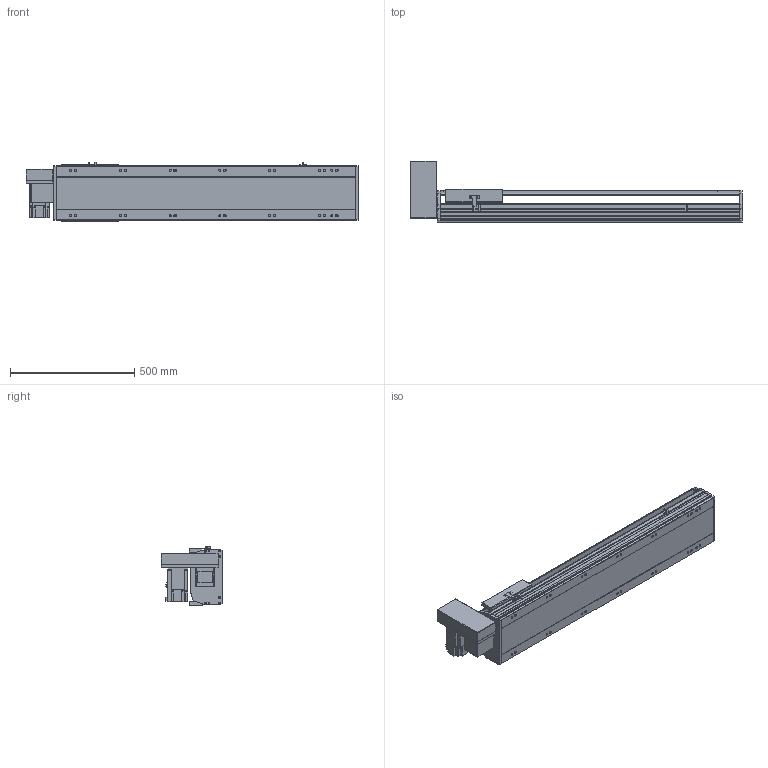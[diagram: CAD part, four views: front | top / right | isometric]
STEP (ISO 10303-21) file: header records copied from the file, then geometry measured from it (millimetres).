
FILE_DESCRIPTION(/* description */ ('STEP AP214'),/* implementation_level */ '2;1');
FILE_NAME(/* name */ 'PBS220-P40-S850-RU-T75-C1-N(0)',/* time_stamp */ '2022-06-13T02:53:26+02:00',/* author */ ('License CC BY-ND 4.0'),/* organization */ ('CADENAS'),/* preprocessor_version */ 'ST-DEVELOPER v18.102',/* originating_system */ 'PARTsolutions',/* authorisation */ ' ');
FILE_SCHEMA (('AUTOMOTIVE_DESIGN {1 0 10303 214 3 1 1}'));
Length unit declared in the file: millimetre
Products named in the file (7): PBS220-P40-S850-RU-T75-C1-N(0); PBS220_sensor; PBS220_plant; PBS220_sliser; T75-p1; PBS220T-RU_motors; PBS220-S850()_body
Assembly tree (8 placements, depth 2):
  PBS220-P40-S850-RU-T75-C1-N(0)
    PBS220_sensor  x3
    PBS220_plant
    PBS220_sliser
    T75-p1
    PBS220T-RU_motors
    PBS220-S850()_body
Bounding box: 1334 x 247 x 238.5 mm (x, y, z)
Volume: 19432282.2 mm3; surface area: 1929968 mm2
Topology: 8 solids, 8 shells, 902 faces, 2368 edges, 1540 vertices
Faces by surface type: plane 594, cylinder 270, cone 38
Full cylindrical faces by diameter (mm): 2.013 x4, 4.5 x14, 4.917 x4, 6 x7, 6.647 x8, 8 x10, 8.376 x14, 8.5 x14, 10 x6, 14 x14, 38 x2, 40 x1, 70 x1
Entity records: 25317 total; most frequent: CARTESIAN_POINT 4426, DIRECTION 4401, ORIENTED_EDGE 4070, EDGE_CURVE 2035, AXIS2_PLACEMENT_3D 1529, VERTEX_POINT 1400, LINE 1343, VECTOR 1343
